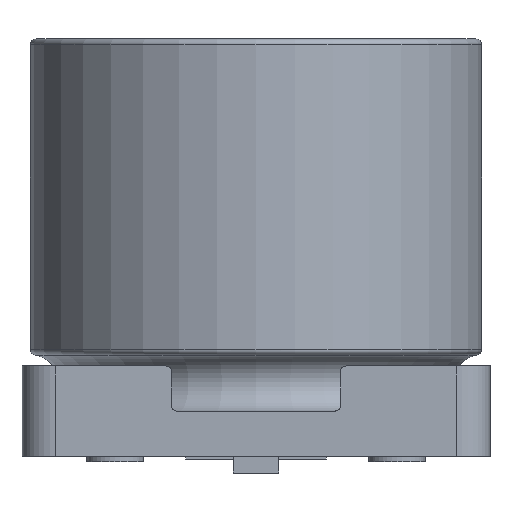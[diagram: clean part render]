
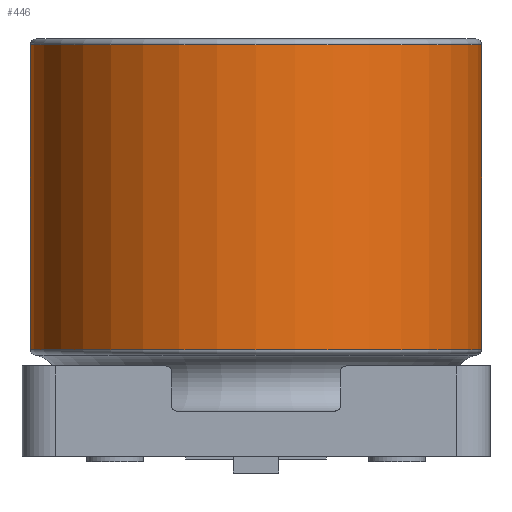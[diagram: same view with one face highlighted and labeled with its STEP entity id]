
A CAD part, left-side view. The second image highlights one B-rep face of the part: STEP entity #446.
In plain terms, the highlighted cylindrical face has radius 4 mm (diameter 8 mm), a full revolution.
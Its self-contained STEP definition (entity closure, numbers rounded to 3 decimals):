
#219=CYLINDRICAL_SURFACE('',#2487,4.);
#446=ADVANCED_FACE('',(#598,#599),#219,.T.);
#598=FACE_BOUND('',#672,.T.);
#599=FACE_BOUND('',#673,.T.);
#672=EDGE_LOOP('',(#1125));
#673=EDGE_LOOP('',(#1126));
#790=CIRCLE('',#2485,4.);
#791=CIRCLE('',#2486,4.);
#1125=ORIENTED_EDGE('',*,*,#1840,.T.);
#1126=ORIENTED_EDGE('',*,*,#1841,.T.);
#1591=VERTEX_POINT('',#3752);
#1592=VERTEX_POINT('',#3754);
#1840=EDGE_CURVE('',#1591,#1591,#790,.T.);
#1841=EDGE_CURVE('',#1592,#1592,#791,.T.);
#2485=AXIS2_PLACEMENT_3D('',#3751,#2909,#2910);
#2486=AXIS2_PLACEMENT_3D('',#3753,#2911,#2912);
#2487=AXIS2_PLACEMENT_3D('',#3755,#2913,#2914);
#2909=DIRECTION('',(0.,0.,1.));
#2910=DIRECTION('',(1.,0.,0.));
#2911=DIRECTION('',(0.,0.,-1.));
#2912=DIRECTION('',(-1.,0.,0.));
#2913=DIRECTION('',(0.,0.,-1.));
#2914=DIRECTION('',(-1.,0.,0.));
#3751=CARTESIAN_POINT('',(0.,0.,1.892));
#3752=CARTESIAN_POINT('',(4.,0.,1.892));
#3753=CARTESIAN_POINT('',(0.,0.,7.3));
#3754=CARTESIAN_POINT('',(-4.,0.,7.3));
#3755=CARTESIAN_POINT('',(0.,0.,0.));
